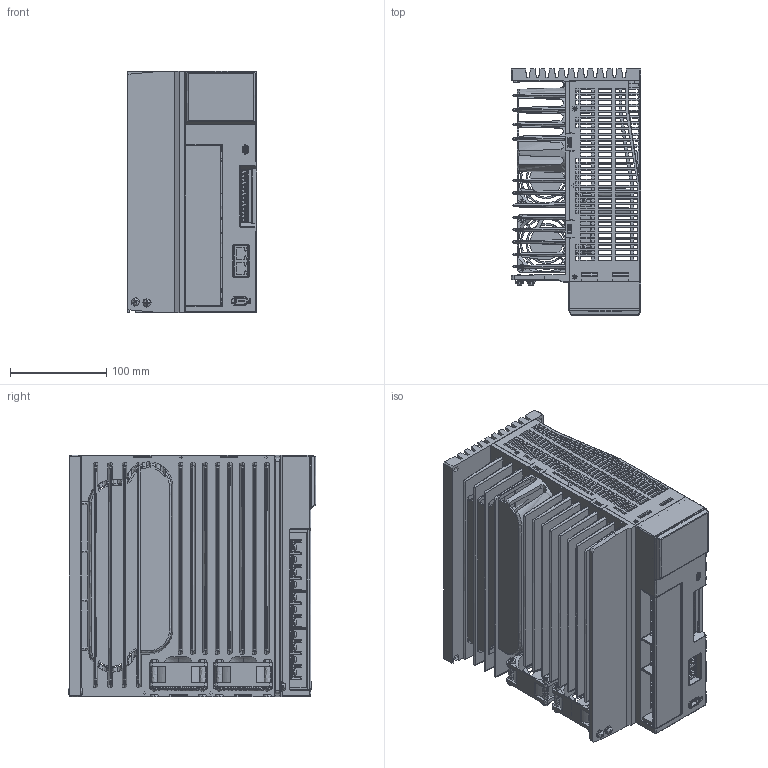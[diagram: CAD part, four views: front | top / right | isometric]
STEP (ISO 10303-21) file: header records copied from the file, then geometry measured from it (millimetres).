
FILE_DESCRIPTION(/* description */ (''),/* implementation_level */ '2;1');
FILE_NAME(/* name */ 'DS5C-45P5+47P5-PTA-官网图',/* time_stamp */ '2022-10-07T13:51:26+08:00',/* author */ (''),/* organization */ (''),/* preprocessor_version */ 'ST-DEVELOPER v15',/* originating_system */ '',/* authorisation */ '');
FILE_SCHEMA (('AUTOMOTIVE_DESIGN'));
Products named in the file (1): Document
Bounding box: 135 x 257.91 x 251 mm (x, y, z)
Surface area: 892516.6 mm2
Topology: 3 solids, 11868 shells, 11876 faces, 76174 edges, 75875 vertices
Faces by surface type: plane 7051, bspline 4825
Entity records: 1018566 total; most frequent: CARTESIAN_POINT 629200, ORIENTED_EDGE 75903, EDGE_CURVE 75885, VERTEX_POINT 75875, B_SPLINE_CURVE_WITH_KNOTS 66151, EDGE_LOOP 13169, ADVANCED_FACE 11876, FACE_OUTER_BOUND 11876
